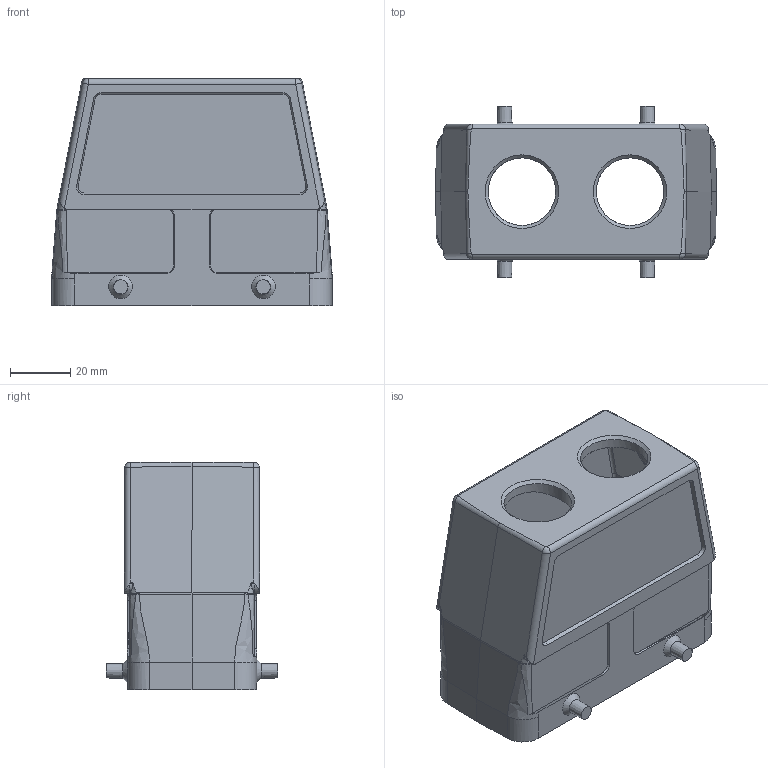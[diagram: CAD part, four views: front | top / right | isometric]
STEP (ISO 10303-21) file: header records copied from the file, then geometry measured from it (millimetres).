
FILE_DESCRIPTION(/* description */ (''),/* implementation_level */ '2;1');
FILE_NAME(/* name */ '100763725ugm000_a.stp',/* time_stamp */ '2022-03-12T06:48:34+01:00',/* author */ (''),/* organization */ (''),/* preprocessor_version */ 'ST-DEVELOPER v16.7',/* originating_system */ 'SIEMENS PLM Software NX 1911',/* authorisation */ '');
FILE_SCHEMA (('AUTOMOTIVE_DESIGN { 1 0 10303 214 3 1 1 1 }'));
Length unit declared in the file: millimetre
Products named in the file (1): 100763725ugm000_a
Bounding box: 93.5 x 57.2 x 75.6 mm (x, y, z)
Volume: 80646.9 mm3; surface area: 42362.4 mm2
Topology: 1 solids, 1 shells, 353 faces, 912 edges, 584 vertices
Faces by surface type: plane 179, bspline 63, cylinder 55, cone 45, sphere 6, torus 5
Full cylindrical faces by diameter (mm): 3 x4, 22.5 x2
Entity records: 21930 total; most frequent: CARTESIAN_POINT 13266, ORIENTED_EDGE 1738, DIRECTION 1463, EDGE_CURVE 869, VERTEX_POINT 574, AXIS2_PLACEMENT_3D 504, LINE 455, VECTOR 455
